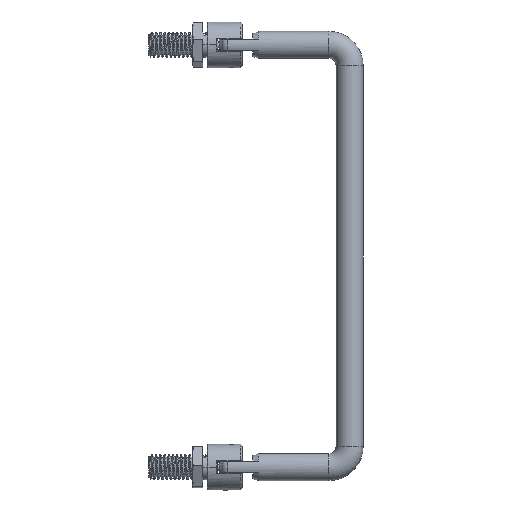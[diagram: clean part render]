
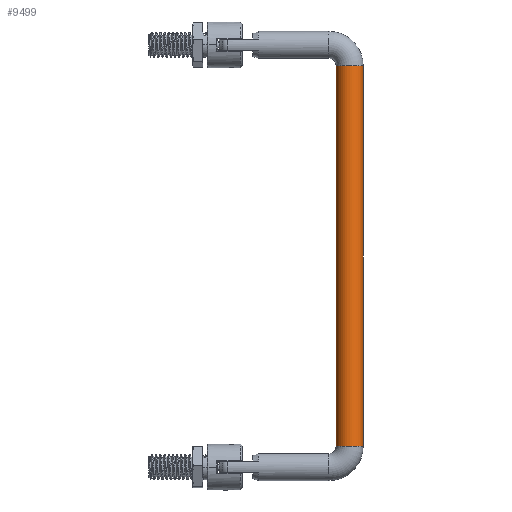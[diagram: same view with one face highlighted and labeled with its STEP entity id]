
A CAD part, front view. The second image highlights one B-rep face of the part: STEP entity #9499.
In plain terms, the highlighted cylindrical face has radius 3.25 mm (diameter 6.5 mm), a partial arc.
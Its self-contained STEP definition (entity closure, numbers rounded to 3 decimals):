
#272 = AXIS2_PLACEMENT_3D ( 'NONE', #7999, #638, #10780 ) ;
#638 = DIRECTION ( 'NONE',  ( 0., 0., -1. ) ) ;
#5069 = DIRECTION ( 'NONE',  ( -1., 0., 0. ) ) ;
#5526 = VERTEX_POINT ( 'NONE', #23122 ) ;
#7999 = CARTESIAN_POINT ( 'NONE',  ( -15.161, -3.744, 69.15 ) ) ;
#8399 = VERTEX_POINT ( 'NONE', #15733 ) ;
#9499 = ADVANCED_FACE ( 'NONE', ( #22487 ), #17147, .T. ) ;
#10256 = ORIENTED_EDGE ( 'NONE', *, *, #20399, .T. ) ;
#10780 = DIRECTION ( 'NONE',  ( -1., 0., 0. ) ) ;
#10849 = DIRECTION ( 'NONE',  ( 0., 0., -1. ) ) ;
#13025 = LINE ( 'NONE', #17852, #25955 ) ;
#13424 = EDGE_CURVE ( 'NONE', #5526, #17871, #31596, .T. ) ;
#13967 = CARTESIAN_POINT ( 'NONE',  ( -11.911, -3.744, 160.65 ) ) ;
#15733 = CARTESIAN_POINT ( 'NONE',  ( -18.411, -3.744, 69.15 ) ) ;
#16560 = VERTEX_POINT ( 'NONE', #32891 ) ;
#16807 = AXIS2_PLACEMENT_3D ( 'NONE', #18159, #28630, #5069 ) ;
#16854 = ORIENTED_EDGE ( 'NONE', *, *, #27546, .F. ) ;
#17147 = CYLINDRICAL_SURFACE ( 'NONE', #30593, 3.25 ) ;
#17316 = DIRECTION ( 'NONE',  ( 0., 0., -1. ) ) ;
#17852 = CARTESIAN_POINT ( 'NONE',  ( -18.411, -3.744, 160.65 ) ) ;
#17871 = VERTEX_POINT ( 'NONE', #20291 ) ;
#18159 = CARTESIAN_POINT ( 'NONE',  ( -15.161, -3.744, 160.65 ) ) ;
#18943 = LINE ( 'NONE', #13967, #22735 ) ;
#19107 = EDGE_CURVE ( 'NONE', #5526, #16560, #18943, .T. ) ;
#19557 = ORIENTED_EDGE ( 'NONE', *, *, #19107, .F. ) ;
#19893 = CARTESIAN_POINT ( 'NONE',  ( -15.161, -3.744, 160.65 ) ) ;
#20059 = DIRECTION ( 'NONE',  ( -1., 0., 0. ) ) ;
#20291 = CARTESIAN_POINT ( 'NONE',  ( -18.411, -3.744, 160.65 ) ) ;
#20399 = EDGE_CURVE ( 'NONE', #17871, #8399, #13025, .T. ) ;
#20586 = EDGE_LOOP ( 'NONE', ( #19557, #22572, #10256, #16854 ) ) ;
#22487 = FACE_OUTER_BOUND ( 'NONE', #20586, .T. ) ;
#22572 = ORIENTED_EDGE ( 'NONE', *, *, #13424, .T. ) ;
#22735 = VECTOR ( 'NONE', #10849, 1000. ) ;
#23122 = CARTESIAN_POINT ( 'NONE',  ( -11.911, -3.744, 160.65 ) ) ;
#25955 = VECTOR ( 'NONE', #33344, 1000. ) ;
#27546 = EDGE_CURVE ( 'NONE', #16560, #8399, #32182, .T. ) ;
#28630 = DIRECTION ( 'NONE',  ( 0., 0., -1. ) ) ;
#30593 = AXIS2_PLACEMENT_3D ( 'NONE', #19893, #17316, #20059 ) ;
#31596 = CIRCLE ( 'NONE', #16807, 3.25 ) ;
#32182 = CIRCLE ( 'NONE', #272, 3.25 ) ;
#32891 = CARTESIAN_POINT ( 'NONE',  ( -11.911, -3.744, 69.15 ) ) ;
#33344 = DIRECTION ( 'NONE',  ( 0., 0., -1. ) ) ;
